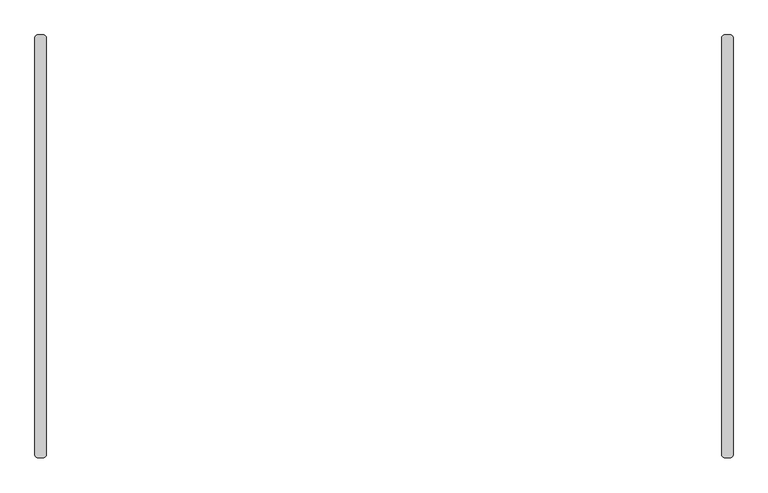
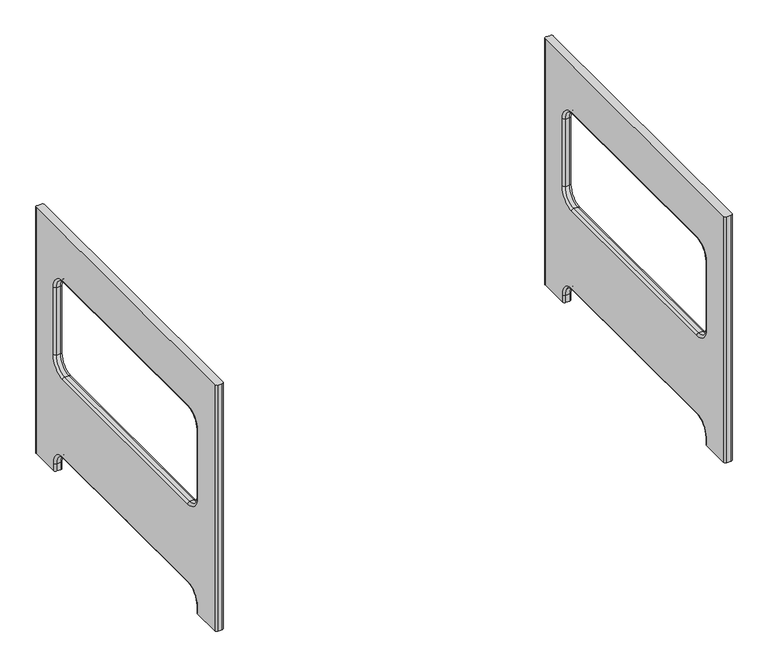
"""IFC4 building model written with IfcOpenShell, lengths in millimetres: furniture geometry, SSL-Childcraft_Outdoor-Table-Rectangle : 2161355."""

from ifc_helpers import new_model, si_unit, point, frame, origin, place, context, project, spatial, polyline, circle_curve, ellipse_curve, trimmed, source, transform, mapped, element, save
from ifc_brep_helpers import plane_surface, cylinder_surface, revolved_surface, advanced_brep


def furniture_5581bd78(model_context):
    return source(origin(), model_context, "Body", "AdvancedBrep", [
        advanced_brep(
        [(-573.0875, 355.6, 590.55), (-582.6125, 355.6, 590.55), (-587.375, 350.8375, 590.55), (-587.375, -350.8375, 590.55), (-582.6125, -355.6, 590.55), (-573.0875, -355.6, 590.55), (-568.325, -350.8375, 590.55), (-568.325, 350.8375, 590.55), (-573.0875, 355.6, 0.0), (-568.325, 350.8375, 0.0), (-568.325, 283.36875, 0.0), (-573.0875, 278.60625, 0.0), (-582.6125, 278.60625, 0.0), (-587.375, 283.36875, 0.0), (-587.375, 350.8375, 0.0), (-582.6125, 355.6, 0.0), (-573.0875, -355.6, 0.0), (-582.6125, -355.6, 0.0), (-587.375, -350.8375, 0.0), (-587.375, -283.36875, 0.0), (-582.6125, -278.60625, 0.0), (-573.0875, -278.60625, 0.0), (-568.325, -283.36875, 0.0), (-568.325, -350.8375, 0.0), (-587.375, 283.36875, 17.4625), (-587.375, 246.0625, 54.76875), (-587.375, -246.0625, 54.76875), (-587.375, -283.36875, 17.4625), (-587.375, -246.0625, 477.04375), (-587.375, -283.36875, 439.7375), (-587.375, -283.36875, 277.8125), (-587.375, -246.0625, 240.50625), (-587.375, 246.0625, 240.50625), (-587.375, 283.36875, 277.8125), (-587.375, 283.36875, 439.7375), (-587.375, 246.0625, 477.04375), (-568.325, -283.36875, 17.4625), (-568.325, -246.0625, 54.76875), (-568.325, 246.0625, 54.76875), (-568.325, 283.36875, 17.4625), (-568.325, -283.36875, 439.7375), (-568.325, -246.0625, 477.04375), (-568.325, 246.0625, 477.04375), (-568.325, 283.36875, 439.7375), (-568.325, 283.36875, 277.8125), (-568.325, 246.0625, 240.50625), (-568.325, -246.0625, 240.50625), (-568.325, -283.36875, 277.8125), (-582.6125, -278.60625, 17.4625), (-573.0875, -278.60625, 17.4625), (-582.6125, -246.0625, 50.00625), (-573.0875, -246.0625, 50.00625), (-582.6125, 246.0625, 50.00625), (-573.0875, 246.0625, 50.00625), (-582.6125, 278.60625, 17.4625), (-573.0875, 278.60625, 17.4625), (-573.0875, -278.60625, 439.7375), (-573.0875, -246.0625, 472.28125), (-582.6125, -278.60625, 439.7375), (-582.6125, -246.0625, 472.28125), (-573.0875, -278.60625, 277.8125), (-582.6125, -278.60625, 277.8125), (-573.0875, -246.0625, 245.26875), (-582.6125, -246.0625, 245.26875), (-573.0875, 246.0625, 245.26875), (-582.6125, 246.0625, 245.26875), (-573.0875, 278.60625, 277.8125), (-582.6125, 278.60625, 277.8125), (-573.0875, 278.60625, 439.7375), (-582.6125, 278.60625, 439.7375), (-573.0875, 246.0625, 472.28125), (-582.6125, 246.0625, 472.28125)],
        [
            (0, 1),
            (1, 2, circle_curve(frame((-582.6125, 350.8375, 590.55), z_axis=(0.0, 0.0, 1.0), x_axis=(1.0, 0.0, 0.0)), 4.7625)),
            (2, 3),
            (3, 4, circle_curve(frame((-582.6125, -350.8375, 590.55), z_axis=(0.0, 0.0, 1.0), x_axis=(1.0, 0.0, 0.0)), 4.7625)),
            (4, 5),
            (5, 6, circle_curve(frame((-573.0875, -350.8375, 590.55), z_axis=(0.0, 0.0, 1.0), x_axis=(1.0, 0.0, 0.0)), 4.7625)),
            (6, 7),
            (7, 0, circle_curve(frame((-573.0875, 350.8375, 590.55), z_axis=(0.0, 0.0, 1.0), x_axis=(1.0, 0.0, 0.0)), 4.7625)),
            (8, 9, circle_curve(frame((-573.0875, 350.8375, 0.0), z_axis=(0.0, 0.0, -1.0), x_axis=(1.0, 0.0, 0.0)), 4.7625)),
            (9, 10),
            (10, 11, circle_curve(frame((-573.0875, 283.36875, 0.0), z_axis=(0.0, 0.0, -1.0), x_axis=(0.0, 1.0, 0.0)), 4.7625)),
            (11, 12),
            (12, 13, circle_curve(frame((-582.6125, 283.36875, 0.0), z_axis=(0.0, 0.0, -1.0), x_axis=(0.0, 1.0, 0.0)), 4.7625)),
            (13, 14),
            (14, 15, circle_curve(frame((-582.6125, 350.8375, 0.0), z_axis=(0.0, 0.0, -1.0), x_axis=(1.0, 0.0, 0.0)), 4.7625)),
            (15, 8),
            (16, 17),
            (17, 18, circle_curve(frame((-582.6125, -350.8375, 0.0), z_axis=(0.0, 0.0, -1.0), x_axis=(1.0, 0.0, 0.0)), 4.7625)),
            (18, 19),
            (19, 20, circle_curve(frame((-582.6125, -283.36875, 0.0), z_axis=(0.0, 0.0, -1.0), x_axis=(0.0, -1.0, 0.0)), 4.7625)),
            (20, 21),
            (21, 22, circle_curve(frame((-573.0875, -283.36875, 0.0), z_axis=(0.0, 0.0, -1.0), x_axis=(0.0, -1.0, 0.0)), 4.7625)),
            (22, 23),
            (23, 16, circle_curve(frame((-573.0875, -350.8375, 0.0), z_axis=(0.0, 0.0, -1.0), x_axis=(1.0, 0.0, 0.0)), 4.7625)),
            (0, 8),
            (15, 1),
            (14, 2),
            (13, 24),
            (24, 25, circle_curve(frame((-587.375, 246.0625, 17.4625), z_axis=(1.0, 0.0, 0.0), x_axis=(0.0, 0.0, 1.0)), 37.30625)),
            (25, 26),
            (26, 27, circle_curve(frame((-587.375, -246.0625, 17.4625), z_axis=(1.0, 0.0, 0.0), x_axis=(0.0, -1.0, 0.0)), 37.30625)),
            (27, 19),
            (18, 3),
            (28, 29, circle_curve(frame((-587.375, -246.0625, 439.7375), z_axis=(1.0, 0.0, 0.0), x_axis=(0.0, 0.0, 1.0)), 37.30625)),
            (29, 30),
            (30, 31, circle_curve(frame((-587.375, -246.0625, 277.8125), z_axis=(1.0, 0.0, 0.0), x_axis=(0.0, -1.0, 0.0)), 37.30625)),
            (31, 32),
            (32, 33, circle_curve(frame((-587.375, 246.0625, 277.8125), z_axis=(1.0, 0.0, 0.0), x_axis=(0.0, 0.0, -1.0)), 37.30625)),
            (33, 34),
            (34, 35, circle_curve(frame((-587.375, 246.0625, 439.7375), z_axis=(1.0, 0.0, 0.0), x_axis=(0.0, 1.0, 0.0)), 37.30625)),
            (35, 28),
            (9, 7),
            (6, 23),
            (22, 36),
            (36, 37, circle_curve(frame((-568.325, -246.0625, 17.4625), z_axis=(-1.0, 0.0, 0.0), x_axis=(0.0, -1.0, 0.0)), 37.30625)),
            (37, 38),
            (38, 39, circle_curve(frame((-568.325, 246.0625, 17.4625), z_axis=(-1.0, 0.0, 0.0), x_axis=(0.0, 0.0, 1.0)), 37.30625)),
            (39, 10),
            (40, 41, circle_curve(frame((-568.325, -246.0625, 439.7375), z_axis=(-1.0, 0.0, 0.0), x_axis=(0.0, 0.0, 1.0)), 37.30625)),
            (41, 42),
            (42, 43, circle_curve(frame((-568.325, 246.0625, 439.7375), z_axis=(-1.0, 0.0, 0.0), x_axis=(0.0, 1.0, 0.0)), 37.30625)),
            (43, 44),
            (44, 45, circle_curve(frame((-568.325, 246.0625, 277.8125), z_axis=(-1.0, 0.0, 0.0), x_axis=(0.0, 0.0, -1.0)), 37.30625)),
            (45, 46),
            (46, 47, circle_curve(frame((-568.325, -246.0625, 277.8125), z_axis=(-1.0, 0.0, 0.0), x_axis=(0.0, -1.0, 0.0)), 37.30625)),
            (47, 40),
            (5, 16),
            (17, 4),
            (27, 48, circle_curve(frame((-582.6125, -283.36875, 17.4625), z_axis=(0.0, 0.0, -1.0), x_axis=(0.0, -1.0, 0.0)), 4.7625)),
            (48, 20),
            (48, 49),
            (49, 21),
            (49, 36, circle_curve(frame((-573.0875, -283.36875, 17.4625), z_axis=(0.0, 0.0, -1.0), x_axis=(0.0, -1.0, 0.0)), 4.7625)),
            (26, 50, circle_curve(frame((-582.6125, -246.0625, 54.76875), z_axis=(0.0, -1.0, 0.0), x_axis=(0.0, 0.0, 1.0)), 4.7625)),
            (50, 48, circle_curve(frame((-582.6125, -246.0625, 17.4625), z_axis=(1.0, 0.0, 0.0), x_axis=(0.0, -1.0, 0.0)), 32.54375)),
            (50, 51),
            (51, 49, circle_curve(frame((-573.0875, -246.0625, 17.4625), z_axis=(1.0, 0.0, 0.0), x_axis=(0.0, -1.0, 0.0)), 32.54375)),
            (51, 37, circle_curve(frame((-573.0875, -246.0625, 54.76875), z_axis=(0.0, -1.0, 0.0), x_axis=(0.0, 0.0, 1.0)), 4.7625)),
            (25, 52, circle_curve(frame((-582.6125, 246.0625, 54.76875), z_axis=(0.0, -1.0, 0.0), x_axis=(0.0, 0.0, 1.0)), 4.7625)),
            (52, 50),
            (52, 53),
            (53, 51),
            (53, 38, circle_curve(frame((-573.0875, 246.0625, 54.76875), z_axis=(0.0, -1.0, 0.0), x_axis=(0.0, 0.0, 1.0)), 4.7625)),
            (24, 54, circle_curve(frame((-582.6125, 283.36875, 17.4625), z_axis=(0.0, 0.0, 1.0), x_axis=(0.0, 1.0, 0.0)), 4.7625)),
            (54, 52, circle_curve(frame((-582.6125, 246.0625, 17.4625), z_axis=(1.0, 0.0, 0.0), x_axis=(0.0, 0.0, 1.0)), 32.54375)),
            (54, 55),
            (55, 53, circle_curve(frame((-573.0875, 246.0625, 17.4625), z_axis=(1.0, 0.0, 0.0), x_axis=(0.0, 0.0, 1.0)), 32.54375)),
            (55, 39, circle_curve(frame((-573.0875, 283.36875, 17.4625), z_axis=(0.0, 0.0, 1.0), x_axis=(0.0, 1.0, 0.0)), 4.7625)),
            (12, 54),
            (11, 55),
            (56, 57, circle_curve(frame((-573.0875, -246.0625, 439.7375), z_axis=(-1.0, 0.0, 0.0), x_axis=(0.0, 0.0, 1.0)), 32.54375)),
            (57, 41, circle_curve(frame((-573.0875, -246.0625, 477.04375), z_axis=(0.0, -1.0, 0.0), x_axis=(0.0, 0.0, -1.0)), 4.7625)),
            (40, 56, circle_curve(frame((-573.0875, -283.36875, 439.7375), z_axis=(0.0, 0.0, 1.0), x_axis=(0.0, 1.0, 0.0)), 4.7625)),
            (56, 58),
            (58, 59, circle_curve(frame((-582.6125, -246.0625, 439.7375), z_axis=(-1.0, 0.0, 0.0), x_axis=(0.0, 0.0, 1.0)), 32.54375)),
            (59, 57),
            (58, 29, circle_curve(frame((-582.6125, -283.36875, 439.7375), z_axis=(0.0, 0.0, 1.0), x_axis=(0.0, 1.0, 0.0)), 4.7625)),
            (28, 59, circle_curve(frame((-582.6125, -246.0625, 477.04375), z_axis=(0.0, -1.0, 0.0), x_axis=(0.0, 0.0, -1.0)), 4.7625)),
            (47, 60, circle_curve(frame((-573.0875, -283.36875, 277.8125), z_axis=(0.0, 0.0, 1.0), x_axis=(0.0, 1.0, 0.0)), 4.7625)),
            (60, 56),
            (60, 61),
            (61, 58),
            (61, 30, circle_curve(frame((-582.6125, -283.36875, 277.8125), z_axis=(0.0, 0.0, 1.0), x_axis=(0.0, 1.0, 0.0)), 4.7625)),
            (46, 62, circle_curve(frame((-573.0875, -246.0625, 240.50625), z_axis=(0.0, -1.0, 0.0), x_axis=(0.0, 0.0, 1.0)), 4.7625)),
            (62, 60, circle_curve(frame((-573.0875, -246.0625, 277.8125), z_axis=(-1.0, 0.0, 0.0), x_axis=(0.0, -1.0, 0.0)), 32.54375)),
            (62, 63),
            (63, 61, circle_curve(frame((-582.6125, -246.0625, 277.8125), z_axis=(-1.0, 0.0, 0.0), x_axis=(0.0, -1.0, 0.0)), 32.54375)),
            (63, 31, circle_curve(frame((-582.6125, -246.0625, 240.50625), z_axis=(0.0, -1.0, 0.0), x_axis=(0.0, 0.0, 1.0)), 4.7625)),
            (45, 64, circle_curve(frame((-573.0875, 246.0625, 240.50625), z_axis=(0.0, -1.0, 0.0), x_axis=(0.0, 0.0, 1.0)), 4.7625)),
            (64, 62),
            (64, 65),
            (65, 63),
            (65, 32, circle_curve(frame((-582.6125, 246.0625, 240.50625), z_axis=(0.0, -1.0, 0.0), x_axis=(0.0, 0.0, 1.0)), 4.7625)),
            (44, 66, circle_curve(frame((-573.0875, 283.36875, 277.8125), z_axis=(0.0, 0.0, -1.0), x_axis=(0.0, -1.0, 0.0)), 4.7625)),
            (66, 64, circle_curve(frame((-573.0875, 246.0625, 277.8125), z_axis=(-1.0, 0.0, 0.0), x_axis=(0.0, 0.0, -1.0)), 32.54375)),
            (66, 67),
            (67, 65, circle_curve(frame((-582.6125, 246.0625, 277.8125), z_axis=(-1.0, 0.0, 0.0), x_axis=(0.0, 0.0, -1.0)), 32.54375)),
            (67, 33, circle_curve(frame((-582.6125, 283.36875, 277.8125), z_axis=(0.0, 0.0, -1.0), x_axis=(0.0, -1.0, 0.0)), 4.7625)),
            (43, 68, circle_curve(frame((-573.0875, 283.36875, 439.7375), z_axis=(0.0, 0.0, -1.0), x_axis=(0.0, -1.0, 0.0)), 4.7625)),
            (68, 66),
            (68, 69),
            (69, 67),
            (69, 34, circle_curve(frame((-582.6125, 283.36875, 439.7375), z_axis=(0.0, 0.0, -1.0), x_axis=(0.0, -1.0, 0.0)), 4.7625)),
            (42, 70, circle_curve(frame((-573.0875, 246.0625, 477.04375), z_axis=(0.0, 1.0, 0.0), x_axis=(0.0, 0.0, -1.0)), 4.7625)),
            (70, 68, circle_curve(frame((-573.0875, 246.0625, 439.7375), z_axis=(-1.0, 0.0, 0.0), x_axis=(0.0, 1.0, 0.0)), 32.54375)),
            (70, 71),
            (71, 69, circle_curve(frame((-582.6125, 246.0625, 439.7375), z_axis=(-1.0, 0.0, 0.0), x_axis=(0.0, 1.0, 0.0)), 32.54375)),
            (71, 35, circle_curve(frame((-582.6125, 246.0625, 477.04375), z_axis=(0.0, 1.0, 0.0), x_axis=(0.0, 0.0, -1.0)), 4.7625)),
            (57, 70),
            (59, 71),
        ],
        [
            plane_surface(frame((-582.6125, 355.6, 590.55), z_axis=(0.0, 0.0, 1.0), x_axis=(-1.0, 0.0, 0.0))),
            plane_surface(frame((-582.6125, 355.6, 0.0), z_axis=(0.0, 0.0, -1.0), x_axis=(1.0, 0.0, 0.0))),
            plane_surface(frame((-573.0875, 355.6, 590.55), z_axis=(0.0, 1.0, 0.0), x_axis=(0.0, 0.0, -1.0))),
            cylinder_surface(frame((-582.6125, 350.8375, 0.0), z_axis=(0.0, 0.0, 1.0), x_axis=(1.0, 0.0, 0.0)), 4.7625),
            plane_surface(frame((-587.375, 350.8375, 590.55), z_axis=(-1.0, 0.0, 0.0), x_axis=(0.0, 0.0, -1.0))),
            plane_surface(frame((-568.325, 350.04375, 590.55), z_axis=(1.0, 0.0, 0.0), x_axis=(0.0, 0.0, -1.0))),
            cylinder_surface(frame((-573.0875, 350.8375, 0.0), z_axis=(0.0, 0.0, 1.0), x_axis=(1.0, 0.0, 0.0)), 4.7625),
            cylinder_surface(frame((-573.0875, -350.8375, 0.0), z_axis=(0.0, 0.0, 1.0), x_axis=(1.0, 0.0, 0.0)), 4.7625),
            cylinder_surface(frame((-582.6125, -350.8375, 0.0), z_axis=(0.0, 0.0, 1.0), x_axis=(1.0, 0.0, 0.0)), 4.7625),
            plane_surface(frame((-582.6125, -355.6, 590.55), z_axis=(0.0, -1.0, 0.0), x_axis=(0.0, 0.0, -1.0))),
            cylinder_surface(frame((-582.6125, -283.36875, 0.0), z_axis=(0.0, 0.0, -1.0), x_axis=(0.0, -1.0, 0.0)), 4.7625),
            plane_surface(frame((-582.6125, -278.60625, 0.0), z_axis=(0.0, 1.0, 0.0), x_axis=(0.0, 0.0, 1.0))),
            cylinder_surface(frame((-573.0875, -283.36875, 0.0), z_axis=(0.0, 0.0, -1.0), x_axis=(0.0, -1.0, 0.0)), 4.7625),
            revolved_surface(trimmed(ellipse_curve(frame((-582.6125, -283.36875, 17.4625), z_axis=(0.0, 0.0, -1.0), x_axis=(0.0, -1.0, 0.0)), 4.7625, 4.7625), [point((-587.375, -283.36875, 17.4625))], [point((-582.6125, -278.60625, 17.4625))], True, "CARTESIAN"), (0.0, -246.0625, 17.4625), (-1.0, 0.0, 0.0)),
            revolved_surface(polyline([(-582.6125, -278.60625, 17.4625), (-573.0875, -278.60625, 17.4625)]), (0.0, -246.0625, 17.4625), (-1.0, 0.0, 0.0)),
            revolved_surface(trimmed(ellipse_curve(frame((-573.0875, -283.36875, 17.4625), z_axis=(0.0, 0.0, -1.0), x_axis=(0.0, -1.0, 0.0)), 4.7625, 4.7625), [point((-573.0875, -278.60625, 17.4625))], [point((-568.325, -283.36875, 17.4625))], True, "CARTESIAN"), (0.0, -246.0625, 17.4625), (-1.0, 0.0, 0.0)),
            cylinder_surface(frame((-582.6125, -246.0625, 54.76875), z_axis=(0.0, -1.0, 0.0), x_axis=(0.0, 0.0, 1.0)), 4.7625),
            plane_surface(frame((-582.6125, -246.0625, 50.00625), z_axis=(0.0, 0.0, -1.0), x_axis=(0.0, 1.0, 0.0))),
            cylinder_surface(frame((-573.0875, -246.0625, 54.76875), z_axis=(0.0, -1.0, 0.0), x_axis=(0.0, 0.0, 1.0)), 4.7625),
            revolved_surface(trimmed(ellipse_curve(frame((-582.6125, 246.0625, 54.76875), z_axis=(0.0, -1.0, 0.0), x_axis=(0.0, 0.0, 1.0)), 4.7625, 4.7625), [point((-587.375, 246.0625, 54.76875))], [point((-582.6125, 246.0625, 50.00625))], True, "CARTESIAN"), (0.0, 246.0625, 17.4625), (-1.0, 0.0, 0.0)),
            revolved_surface(polyline([(-582.6125, 246.0625, 50.00625), (-573.0875, 246.0625, 50.00625)]), (0.0, 246.0625, 17.4625), (-1.0, 0.0, 0.0)),
            revolved_surface(trimmed(ellipse_curve(frame((-573.0875, 246.0625, 54.76875), z_axis=(0.0, -1.0, 0.0), x_axis=(0.0, 0.0, 1.0)), 4.7625, 4.7625), [point((-573.0875, 246.0625, 50.00625))], [point((-568.325, 246.0625, 54.76875))], True, "CARTESIAN"), (0.0, 246.0625, 17.4625), (-1.0, 0.0, 0.0)),
            cylinder_surface(frame((-582.6125, 283.36875, 17.4625), z_axis=(0.0, 0.0, 1.0), x_axis=(0.0, 1.0, 0.0)), 4.7625),
            plane_surface(frame((-582.6125, 278.60625, 17.4625), z_axis=(0.0, -1.0, 0.0), x_axis=(0.0, 0.0, -1.0))),
            cylinder_surface(frame((-573.0875, 283.36875, 17.4625), z_axis=(0.0, 0.0, 1.0), x_axis=(0.0, 1.0, 0.0)), 4.7625),
            revolved_surface(trimmed(ellipse_curve(frame((-573.0875, -246.0625, 477.04375), z_axis=(0.0, 1.0, 0.0), x_axis=(0.0, 0.0, -1.0)), 4.7625, 4.7625), [point((-568.325, -246.0625, 477.04375))], [point((-573.0875, -246.0625, 472.28125))], True, "CARTESIAN"), (0.0, -246.0625, 439.7375), (1.0, 0.0, 0.0)),
            revolved_surface(polyline([(-573.0875, -246.0625, 472.28125), (-582.6125, -246.0625, 472.28125)]), (0.0, -246.0625, 439.7375), (1.0, 0.0, 0.0)),
            revolved_surface(trimmed(ellipse_curve(frame((-582.6125, -246.0625, 477.04375), z_axis=(0.0, 1.0, 0.0), x_axis=(0.0, 0.0, -1.0)), 4.7625, 4.7625), [point((-582.6125, -246.0625, 472.28125))], [point((-587.375, -246.0625, 477.04375))], True, "CARTESIAN"), (0.0, -246.0625, 439.7375), (1.0, 0.0, 0.0)),
            cylinder_surface(frame((-573.0875, -283.36875, 439.7375), z_axis=(0.0, 0.0, 1.0), x_axis=(0.0, 1.0, 0.0)), 4.7625),
            plane_surface(frame((-573.0875, -278.60625, 439.7375), z_axis=(0.0, 1.0, 0.0), x_axis=(0.0, 0.0, -1.0))),
            cylinder_surface(frame((-582.6125, -283.36875, 439.7375), z_axis=(0.0, 0.0, 1.0), x_axis=(0.0, 1.0, 0.0)), 4.7625),
            revolved_surface(trimmed(ellipse_curve(frame((-573.0875, -283.36875, 277.8125), z_axis=(0.0, 0.0, 1.0), x_axis=(0.0, 1.0, 0.0)), 4.7625, 4.7625), [point((-568.325, -283.36875, 277.8125))], [point((-573.0875, -278.60625, 277.8125))], True, "CARTESIAN"), (0.0, -246.0625, 277.8125), (1.0, 0.0, 0.0)),
            revolved_surface(polyline([(-573.0875, -278.60625, 277.8125), (-582.6125, -278.60625, 277.8125)]), (0.0, -246.0625, 277.8125), (1.0, 0.0, 0.0)),
            revolved_surface(trimmed(ellipse_curve(frame((-582.6125, -283.36875, 277.8125), z_axis=(0.0, 0.0, 1.0), x_axis=(0.0, 1.0, 0.0)), 4.7625, 4.7625), [point((-582.6125, -278.60625, 277.8125))], [point((-587.375, -283.36875, 277.8125))], True, "CARTESIAN"), (0.0, -246.0625, 277.8125), (1.0, 0.0, 0.0)),
            cylinder_surface(frame((-573.0875, -246.0625, 240.50625), z_axis=(0.0, -1.0, 0.0), x_axis=(0.0, 0.0, 1.0)), 4.7625),
            plane_surface(frame((-573.0875, -246.0625, 245.26875), z_axis=(0.0, 0.0, 1.0), x_axis=(0.0, 1.0, 0.0))),
            cylinder_surface(frame((-582.6125, -246.0625, 240.50625), z_axis=(0.0, -1.0, 0.0), x_axis=(0.0, 0.0, 1.0)), 4.7625),
            revolved_surface(trimmed(ellipse_curve(frame((-573.0875, 246.0625, 240.50625), z_axis=(0.0, -1.0, 0.0), x_axis=(0.0, 0.0, 1.0)), 4.7625, 4.7625), [point((-568.325, 246.0625, 240.50625))], [point((-573.0875, 246.0625, 245.26875))], True, "CARTESIAN"), (0.0, 246.0625, 277.8125), (1.0, 0.0, 0.0)),
            revolved_surface(polyline([(-573.0875, 246.0625, 245.26875), (-582.6125, 246.0625, 245.26875)]), (0.0, 246.0625, 277.8125), (1.0, 0.0, 0.0)),
            revolved_surface(trimmed(ellipse_curve(frame((-582.6125, 246.0625, 240.50625), z_axis=(0.0, -1.0, 0.0), x_axis=(0.0, 0.0, 1.0)), 4.7625, 4.7625), [point((-582.6125, 246.0625, 245.26875))], [point((-587.375, 246.0625, 240.50625))], True, "CARTESIAN"), (0.0, 246.0625, 277.8125), (1.0, 0.0, 0.0)),
            cylinder_surface(frame((-573.0875, 283.36875, 277.8125), z_axis=(0.0, 0.0, -1.0), x_axis=(0.0, -1.0, 0.0)), 4.7625),
            plane_surface(frame((-573.0875, 278.60625, 277.8125), z_axis=(0.0, -1.0, 0.0), x_axis=(0.0, 0.0, 1.0))),
            cylinder_surface(frame((-582.6125, 283.36875, 277.8125), z_axis=(0.0, 0.0, -1.0), x_axis=(0.0, -1.0, 0.0)), 4.7625),
            revolved_surface(trimmed(ellipse_curve(frame((-573.0875, 283.36875, 439.7375), z_axis=(0.0, 0.0, -1.0), x_axis=(0.0, -1.0, 0.0)), 4.7625, 4.7625), [point((-568.325, 283.36875, 439.7375))], [point((-573.0875, 278.60625, 439.7375))], True, "CARTESIAN"), (0.0, 246.0625, 439.7375), (1.0, 0.0, 0.0)),
            revolved_surface(polyline([(-573.0875, 278.60625, 439.7375), (-582.6125, 278.60625, 439.7375)]), (0.0, 246.0625, 439.7375), (1.0, 0.0, 0.0)),
            revolved_surface(trimmed(ellipse_curve(frame((-582.6125, 283.36875, 439.7375), z_axis=(0.0, 0.0, -1.0), x_axis=(0.0, -1.0, 0.0)), 4.7625, 4.7625), [point((-582.6125, 278.60625, 439.7375))], [point((-587.375, 283.36875, 439.7375))], True, "CARTESIAN"), (0.0, 246.0625, 439.7375), (1.0, 0.0, 0.0)),
            cylinder_surface(frame((-573.0875, 246.0625, 477.04375), z_axis=(0.0, 1.0, 0.0), x_axis=(0.0, 0.0, -1.0)), 4.7625),
            plane_surface(frame((-573.0875, 246.0625, 472.28125), z_axis=(0.0, 0.0, -1.0), x_axis=(0.0, -1.0, 0.0))),
            cylinder_surface(frame((-582.6125, 246.0625, 477.04375), z_axis=(0.0, 1.0, 0.0), x_axis=(0.0, 0.0, -1.0)), 4.7625),
        ],
        [
            (0, [[1, 2, 3, 4, 5, 6, 7, 8]]),
            (1, [[9, 10, 11, 12, 13, 14, 15, 16]]),
            (1, [[17, 18, 19, 20, 21, 22, 23, 24]]),
            (2, [[-1, 25, -16, 26]]),
            (3, [[-2, -26, -15, 27]]),
            (4, [[-27, -14, 28, 29, 30, 31, 32, -19, 33, -3], [34, 35, 36, 37, 38, 39, 40, 41]]),
            (5, [[42, -7, 43, -23, 44, 45, 46, 47, 48, -10], [49, 50, 51, 52, 53, 54, 55, 56]]),
            (6, [[-8, -42, -9, -25]]),
            (7, [[-6, 57, -24, -43]]),
            (8, [[-4, -33, -18, 58]]),
            (9, [[-5, -58, -17, -57]]),
            (10, [[-20, -32, 59, 60]]),
            (11, [[-21, -60, 61, 62]]),
            (12, [[-22, -62, 63, -44]]),
            (13, [[-31, 64, 65, -59]]),
            (14, [[-61, -65, 66, 67]]),
            (15, [[-63, -67, 68, -45]]),
            (16, [[-30, 69, 70, -64]]),
            (17, [[-66, -70, 71, 72]]),
            (18, [[-46, -68, -72, 73]]),
            (19, [[-29, 74, 75, -69]]),
            (20, [[-71, -75, 76, 77]]),
            (21, [[-47, -73, -77, 78]]),
            (22, [[-28, -13, 79, -74]]),
            (23, [[-76, -79, -12, 80]]),
            (24, [[-48, -78, -80, -11]]),
            (25, [[81, 82, -49, 83]]),
            (26, [[-81, 84, 85, 86]]),
            (27, [[-85, 87, -34, 88]]),
            (28, [[-83, -56, 89, 90]]),
            (29, [[-84, -90, 91, 92]]),
            (30, [[-87, -92, 93, -35]]),
            (31, [[-89, -55, 94, 95]]),
            (32, [[-91, -95, 96, 97]]),
            (33, [[-93, -97, 98, -36]]),
            (34, [[-94, -54, 99, 100]]),
            (35, [[-96, -100, 101, 102]]),
            (36, [[-98, -102, 103, -37]]),
            (37, [[-99, -53, 104, 105]]),
            (38, [[-101, -105, 106, 107]]),
            (39, [[-103, -107, 108, -38]]),
            (40, [[-104, -52, 109, 110]]),
            (41, [[-106, -110, 111, 112]]),
            (42, [[-108, -112, 113, -39]]),
            (43, [[-109, -51, 114, 115]]),
            (44, [[-111, -115, 116, 117]]),
            (45, [[-113, -117, 118, -40]]),
            (46, [[-82, 119, -114, -50]]),
            (47, [[-86, 120, -116, -119]]),
            (48, [[-88, -41, -118, -120]]),
        ],
    ),
        advanced_brep(
        [(573.0875, 355.6, 590.55), (568.325, 350.8375, 590.55), (568.325, -350.8375, 590.55), (573.0875, -355.6, 590.55), (582.6125, -355.6, 590.55), (587.375, -350.8375, 590.55), (587.375, 350.8375, 590.55), (582.6125, 355.6, 590.55), (573.0875, 355.6, 0.0), (582.6125, 355.6, 0.0), (587.375, 350.8375, 0.0), (587.375, 283.36875, 0.0), (582.6125, 278.60625, 0.0), (573.0875, 278.60625, 0.0), (568.325, 283.36875, 0.0), (568.325, 350.8375, 0.0), (568.325, -283.36875, 0.0), (573.0875, -278.60625, 0.0), (582.6125, -278.60625, 0.0), (587.375, -283.36875, 0.0), (587.375, -350.8375, 0.0), (582.6125, -355.6, 0.0), (573.0875, -355.6, 0.0), (568.325, -350.8375, 0.0), (568.325, 283.36875, 17.4625), (568.325, 246.0625, 54.76875), (568.325, -246.0625, 54.76875), (568.325, -283.36875, 17.4625), (568.325, -246.0625, 477.04375), (568.325, -283.36875, 439.7375), (568.325, -283.36875, 277.8125), (568.325, -246.0625, 240.50625), (568.325, 246.0625, 240.50625), (568.325, 283.36875, 277.8125), (568.325, 283.36875, 439.7375), (568.325, 246.0625, 477.04375), (587.375, -283.36875, 17.4625), (587.375, -246.0625, 54.76875), (587.375, 246.0625, 54.76875), (587.375, 283.36875, 17.4625), (587.375, -283.36875, 439.7375), (587.375, -246.0625, 477.04375), (587.375, 246.0625, 477.04375), (587.375, 283.36875, 439.7375), (587.375, 283.36875, 277.8125), (587.375, 246.0625, 240.50625), (587.375, -246.0625, 240.50625), (587.375, -283.36875, 277.8125), (573.0875, -278.60625, 17.4625), (582.6125, -278.60625, 17.4625), (573.0875, -246.0625, 50.00625), (582.6125, -246.0625, 50.00625), (573.0875, 246.0625, 50.00625), (582.6125, 246.0625, 50.00625), (573.0875, 278.60625, 17.4625), (582.6125, 278.60625, 17.4625), (582.6125, -278.60625, 439.7375), (582.6125, -246.0625, 472.28125), (573.0875, -278.60625, 439.7375), (573.0875, -246.0625, 472.28125), (582.6125, -278.60625, 277.8125), (573.0875, -278.60625, 277.8125), (582.6125, -246.0625, 245.26875), (573.0875, -246.0625, 245.26875), (582.6125, 246.0625, 245.26875), (573.0875, 246.0625, 245.26875), (582.6125, 278.60625, 277.8125), (573.0875, 278.60625, 277.8125), (582.6125, 278.60625, 439.7375), (573.0875, 278.60625, 439.7375), (582.6125, 246.0625, 472.28125), (573.0875, 246.0625, 472.28125)],
        [
            (0, 1, circle_curve(frame((573.0875, 350.8375, 590.55), z_axis=(0.0, 0.0, 1.0), x_axis=(1.0, 0.0, 0.0)), 4.7625)),
            (1, 2),
            (2, 3, circle_curve(frame((573.0875, -350.8375, 590.55), z_axis=(0.0, 0.0, 1.0), x_axis=(1.0, 0.0, 0.0)), 4.7625)),
            (3, 4),
            (4, 5, circle_curve(frame((582.6125, -350.8375, 590.55), z_axis=(0.0, 0.0, 1.0), x_axis=(1.0, 0.0, 0.0)), 4.7625)),
            (5, 6),
            (6, 7, circle_curve(frame((582.6125, 350.8375, 590.55), z_axis=(0.0, 0.0, 1.0), x_axis=(1.0, 0.0, 0.0)), 4.7625)),
            (7, 0),
            (8, 9),
            (9, 10, circle_curve(frame((582.6125, 350.8375, 0.0), z_axis=(0.0, 0.0, -1.0), x_axis=(1.0, 0.0, 0.0)), 4.7625)),
            (10, 11),
            (11, 12, circle_curve(frame((582.6125, 283.36875, 0.0), z_axis=(0.0, 0.0, -1.0), x_axis=(0.0, 1.0, 0.0)), 4.7625)),
            (12, 13),
            (13, 14, circle_curve(frame((573.0875, 283.36875, 0.0), z_axis=(0.0, 0.0, -1.0), x_axis=(0.0, 1.0, 0.0)), 4.7625)),
            (14, 15),
            (15, 8, circle_curve(frame((573.0875, 350.8375, 0.0), z_axis=(0.0, 0.0, -1.0), x_axis=(1.0, 0.0, 0.0)), 4.7625)),
            (16, 17, circle_curve(frame((573.0875, -283.36875, 0.0), z_axis=(0.0, 0.0, -1.0), x_axis=(0.0, -1.0, 0.0)), 4.7625)),
            (17, 18),
            (18, 19, circle_curve(frame((582.6125, -283.36875, 0.0), z_axis=(0.0, 0.0, -1.0), x_axis=(0.0, -1.0, 0.0)), 4.7625)),
            (19, 20),
            (20, 21, circle_curve(frame((582.6125, -350.8375, 0.0), z_axis=(0.0, 0.0, -1.0), x_axis=(1.0, 0.0, 0.0)), 4.7625)),
            (21, 22),
            (22, 23, circle_curve(frame((573.0875, -350.8375, 0.0), z_axis=(0.0, 0.0, -1.0), x_axis=(1.0, 0.0, 0.0)), 4.7625)),
            (23, 16),
            (0, 8),
            (15, 1),
            (14, 24),
            (24, 25, circle_curve(frame((568.325, 246.0625, 17.4625), z_axis=(1.0, 0.0, 0.0), x_axis=(0.0, 0.0, 1.0)), 37.30625)),
            (25, 26),
            (26, 27, circle_curve(frame((568.325, -246.0625, 17.4625), z_axis=(1.0, 0.0, 0.0), x_axis=(0.0, -1.0, 0.0)), 37.30625)),
            (27, 16),
            (23, 2),
            (28, 29, circle_curve(frame((568.325, -246.0625, 439.7375), z_axis=(1.0, 0.0, 0.0), x_axis=(0.0, 0.0, 1.0)), 37.30625)),
            (29, 30),
            (30, 31, circle_curve(frame((568.325, -246.0625, 277.8125), z_axis=(1.0, 0.0, 0.0), x_axis=(0.0, -1.0, 0.0)), 37.30625)),
            (31, 32),
            (32, 33, circle_curve(frame((568.325, 246.0625, 277.8125), z_axis=(1.0, 0.0, 0.0), x_axis=(0.0, 0.0, -1.0)), 37.30625)),
            (33, 34),
            (34, 35, circle_curve(frame((568.325, 246.0625, 439.7375), z_axis=(1.0, 0.0, 0.0), x_axis=(0.0, 1.0, 0.0)), 37.30625)),
            (35, 28),
            (5, 20),
            (19, 36),
            (36, 37, circle_curve(frame((587.375, -246.0625, 17.4625), z_axis=(-1.0, 0.0, 0.0), x_axis=(0.0, -1.0, 0.0)), 37.30625)),
            (37, 38),
            (38, 39, circle_curve(frame((587.375, 246.0625, 17.4625), z_axis=(-1.0, 0.0, 0.0), x_axis=(0.0, 0.0, 1.0)), 37.30625)),
            (39, 11),
            (10, 6),
            (40, 41, circle_curve(frame((587.375, -246.0625, 439.7375), z_axis=(-1.0, 0.0, 0.0), x_axis=(0.0, 0.0, 1.0)), 37.30625)),
            (41, 42),
            (42, 43, circle_curve(frame((587.375, 246.0625, 439.7375), z_axis=(-1.0, 0.0, 0.0), x_axis=(0.0, 1.0, 0.0)), 37.30625)),
            (43, 44),
            (44, 45, circle_curve(frame((587.375, 246.0625, 277.8125), z_axis=(-1.0, 0.0, 0.0), x_axis=(0.0, 0.0, -1.0)), 37.30625)),
            (45, 46),
            (46, 47, circle_curve(frame((587.375, -246.0625, 277.8125), z_axis=(-1.0, 0.0, 0.0), x_axis=(0.0, -1.0, 0.0)), 37.30625)),
            (47, 40),
            (9, 7),
            (3, 22),
            (21, 4),
            (17, 48),
            (48, 49),
            (49, 18),
            (48, 50, circle_curve(frame((573.0875, -246.0625, 17.4625), z_axis=(-1.0, 0.0, 0.0), x_axis=(0.0, -1.0, 0.0)), 32.54375)),
            (50, 51),
            (51, 49, circle_curve(frame((582.6125, -246.0625, 17.4625), z_axis=(1.0, 0.0, 0.0), x_axis=(0.0, -1.0, 0.0)), 32.54375)),
            (50, 52),
            (52, 53),
            (53, 51),
            (52, 54, circle_curve(frame((573.0875, 246.0625, 17.4625), z_axis=(-1.0, 0.0, 0.0), x_axis=(0.0, 0.0, 1.0)), 32.54375)),
            (54, 55),
            (55, 53, circle_curve(frame((582.6125, 246.0625, 17.4625), z_axis=(1.0, 0.0, 0.0), x_axis=(0.0, 0.0, 1.0)), 32.54375)),
            (54, 13),
            (12, 55),
            (27, 48, circle_curve(frame((573.0875, -283.36875, 17.4625), z_axis=(0.0, 0.0, -1.0), x_axis=(0.0, -1.0, 0.0)), 4.7625)),
            (49, 36, circle_curve(frame((582.6125, -283.36875, 17.4625), z_axis=(0.0, 0.0, -1.0), x_axis=(0.0, -1.0, 0.0)), 4.7625)),
            (26, 50, circle_curve(frame((573.0875, -246.0625, 54.76875), z_axis=(0.0, -1.0, 0.0), x_axis=(0.0, 0.0, 1.0)), 4.7625)),
            (51, 37, circle_curve(frame((582.6125, -246.0625, 54.76875), z_axis=(0.0, -1.0, 0.0), x_axis=(0.0, 0.0, 1.0)), 4.7625)),
            (25, 52, circle_curve(frame((573.0875, 246.0625, 54.76875), z_axis=(0.0, -1.0, 0.0), x_axis=(0.0, 0.0, 1.0)), 4.7625)),
            (53, 38, circle_curve(frame((582.6125, 246.0625, 54.76875), z_axis=(0.0, -1.0, 0.0), x_axis=(0.0, 0.0, 1.0)), 4.7625)),
            (24, 54, circle_curve(frame((573.0875, 283.36875, 17.4625), z_axis=(0.0, 0.0, 1.0), x_axis=(0.0, 1.0, 0.0)), 4.7625)),
            (55, 39, circle_curve(frame((582.6125, 283.36875, 17.4625), z_axis=(0.0, 0.0, 1.0), x_axis=(0.0, 1.0, 0.0)), 4.7625)),
            (56, 57, circle_curve(frame((582.6125, -246.0625, 439.7375), z_axis=(-1.0, 0.0, 0.0), x_axis=(0.0, 0.0, 1.0)), 32.54375)),
            (57, 41, circle_curve(frame((582.6125, -246.0625, 477.04375), z_axis=(0.0, -1.0, 0.0), x_axis=(0.0, 0.0, -1.0)), 4.7625)),
            (40, 56, circle_curve(frame((582.6125, -283.36875, 439.7375), z_axis=(0.0, 0.0, 1.0), x_axis=(0.0, 1.0, 0.0)), 4.7625)),
            (56, 58),
            (58, 59, circle_curve(frame((573.0875, -246.0625, 439.7375), z_axis=(-1.0, 0.0, 0.0), x_axis=(0.0, 0.0, 1.0)), 32.54375)),
            (59, 57),
            (58, 29, circle_curve(frame((573.0875, -283.36875, 439.7375), z_axis=(0.0, 0.0, 1.0), x_axis=(0.0, 1.0, 0.0)), 4.7625)),
            (28, 59, circle_curve(frame((573.0875, -246.0625, 477.04375), z_axis=(0.0, -1.0, 0.0), x_axis=(0.0, 0.0, -1.0)), 4.7625)),
            (47, 60, circle_curve(frame((582.6125, -283.36875, 277.8125), z_axis=(0.0, 0.0, 1.0), x_axis=(0.0, 1.0, 0.0)), 4.7625)),
            (60, 56),
            (60, 61),
            (61, 58),
            (61, 30, circle_curve(frame((573.0875, -283.36875, 277.8125), z_axis=(0.0, 0.0, 1.0), x_axis=(0.0, 1.0, 0.0)), 4.7625)),
            (46, 62, circle_curve(frame((582.6125, -246.0625, 240.50625), z_axis=(0.0, -1.0, 0.0), x_axis=(0.0, 0.0, 1.0)), 4.7625)),
            (62, 60, circle_curve(frame((582.6125, -246.0625, 277.8125), z_axis=(-1.0, 0.0, 0.0), x_axis=(0.0, -1.0, 0.0)), 32.54375)),
            (62, 63),
            (63, 61, circle_curve(frame((573.0875, -246.0625, 277.8125), z_axis=(-1.0, 0.0, 0.0), x_axis=(0.0, -1.0, 0.0)), 32.54375)),
            (63, 31, circle_curve(frame((573.0875, -246.0625, 240.50625), z_axis=(0.0, -1.0, 0.0), x_axis=(0.0, 0.0, 1.0)), 4.7625)),
            (45, 64, circle_curve(frame((582.6125, 246.0625, 240.50625), z_axis=(0.0, -1.0, 0.0), x_axis=(0.0, 0.0, 1.0)), 4.7625)),
            (64, 62),
            (64, 65),
            (65, 63),
            (65, 32, circle_curve(frame((573.0875, 246.0625, 240.50625), z_axis=(0.0, -1.0, 0.0), x_axis=(0.0, 0.0, 1.0)), 4.7625)),
            (44, 66, circle_curve(frame((582.6125, 283.36875, 277.8125), z_axis=(0.0, 0.0, -1.0), x_axis=(0.0, -1.0, 0.0)), 4.7625)),
            (66, 64, circle_curve(frame((582.6125, 246.0625, 277.8125), z_axis=(-1.0, 0.0, 0.0), x_axis=(0.0, 0.0, -1.0)), 32.54375)),
            (66, 67),
            (67, 65, circle_curve(frame((573.0875, 246.0625, 277.8125), z_axis=(-1.0, 0.0, 0.0), x_axis=(0.0, 0.0, -1.0)), 32.54375)),
            (67, 33, circle_curve(frame((573.0875, 283.36875, 277.8125), z_axis=(0.0, 0.0, -1.0), x_axis=(0.0, -1.0, 0.0)), 4.7625)),
            (43, 68, circle_curve(frame((582.6125, 283.36875, 439.7375), z_axis=(0.0, 0.0, -1.0), x_axis=(0.0, -1.0, 0.0)), 4.7625)),
            (68, 66),
            (68, 69),
            (69, 67),
            (69, 34, circle_curve(frame((573.0875, 283.36875, 439.7375), z_axis=(0.0, 0.0, -1.0), x_axis=(0.0, -1.0, 0.0)), 4.7625)),
            (42, 70, circle_curve(frame((582.6125, 246.0625, 477.04375), z_axis=(0.0, 1.0, 0.0), x_axis=(0.0, 0.0, -1.0)), 4.7625)),
            (70, 68, circle_curve(frame((582.6125, 246.0625, 439.7375), z_axis=(-1.0, 0.0, 0.0), x_axis=(0.0, 1.0, 0.0)), 32.54375)),
            (70, 71),
            (71, 69, circle_curve(frame((573.0875, 246.0625, 439.7375), z_axis=(-1.0, 0.0, 0.0), x_axis=(0.0, 1.0, 0.0)), 32.54375)),
            (71, 35, circle_curve(frame((573.0875, 246.0625, 477.04375), z_axis=(0.0, 1.0, 0.0), x_axis=(0.0, 0.0, -1.0)), 4.7625)),
            (57, 70),
            (59, 71),
        ],
        [
            plane_surface(frame((-582.6125, 355.6, 590.55), z_axis=(0.0, 0.0, 1.0), x_axis=(-1.0, 0.0, 0.0))),
            plane_surface(frame((-582.6125, 355.6, 0.0), z_axis=(0.0, 0.0, -1.0), x_axis=(1.0, 0.0, 0.0))),
            cylinder_surface(frame((573.0875, 350.8375, 0.0), z_axis=(0.0, 0.0, 1.0), x_axis=(1.0, 0.0, 0.0)), 4.7625),
            plane_surface(frame((568.325, 350.8375, 590.55), z_axis=(-1.0, 0.0, 0.0), x_axis=(0.0, 0.0, -1.0))),
            plane_surface(frame((587.375, 350.04375, 590.55), z_axis=(1.0, 0.0, 0.0), x_axis=(0.0, 0.0, -1.0))),
            cylinder_surface(frame((582.6125, 350.8375, 0.0), z_axis=(0.0, 0.0, 1.0), x_axis=(1.0, 0.0, 0.0)), 4.7625),
            plane_surface(frame((582.6125, 355.6, 590.55), z_axis=(0.0, 1.0, 0.0), x_axis=(0.0, 0.0, -1.0))),
            plane_surface(frame((573.0875, -355.6, 590.55), z_axis=(0.0, -1.0, 0.0), x_axis=(0.0, 0.0, -1.0))),
            cylinder_surface(frame((582.6125, -350.8375, 0.0), z_axis=(0.0, 0.0, 1.0), x_axis=(1.0, 0.0, 0.0)), 4.7625),
            cylinder_surface(frame((573.0875, -350.8375, 0.0), z_axis=(0.0, 0.0, 1.0), x_axis=(1.0, 0.0, 0.0)), 4.7625),
            plane_surface(frame((573.0875, -278.60625, 0.0), z_axis=(0.0, 1.0, 0.0), x_axis=(0.0, 0.0, 1.0))),
            revolved_surface(polyline([(573.0875, -278.60625, 17.4625), (582.6125, -278.60625, 17.4625)]), (0.0, -246.0625, 17.4625), (-1.0, 0.0, 0.0)),
            plane_surface(frame((573.0875, -246.0625, 50.00625), z_axis=(0.0, 0.0, -1.0), x_axis=(0.0, 1.0, 0.0))),
            revolved_surface(polyline([(573.0875, 246.0625, 50.00625), (582.6125, 246.0625, 50.00625)]), (0.0, 246.0625, 17.4625), (-1.0, 0.0, 0.0)),
            plane_surface(frame((573.0875, 278.60625, 17.4625), z_axis=(0.0, -1.0, 0.0), x_axis=(0.0, 0.0, -1.0))),
            cylinder_surface(frame((573.0875, -283.36875, 0.0), z_axis=(0.0, 0.0, -1.0), x_axis=(0.0, -1.0, 0.0)), 4.7625),
            cylinder_surface(frame((582.6125, -283.36875, 0.0), z_axis=(0.0, 0.0, -1.0), x_axis=(0.0, -1.0, 0.0)), 4.7625),
            revolved_surface(trimmed(ellipse_curve(frame((573.0875, -283.36875, 17.4625), z_axis=(0.0, 0.0, -1.0), x_axis=(0.0, -1.0, 0.0)), 4.7625, 4.7625), [point((568.325, -283.36875, 17.4625))], [point((573.0875, -278.60625, 17.4625))], True, "CARTESIAN"), (0.0, -246.0625, 17.4625), (-1.0, 0.0, 0.0)),
            revolved_surface(trimmed(ellipse_curve(frame((582.6125, -283.36875, 17.4625), z_axis=(0.0, 0.0, -1.0), x_axis=(0.0, -1.0, 0.0)), 4.7625, 4.7625), [point((582.6125, -278.60625, 17.4625))], [point((587.375, -283.36875, 17.4625))], True, "CARTESIAN"), (0.0, -246.0625, 17.4625), (-1.0, 0.0, 0.0)),
            cylinder_surface(frame((573.0875, -246.0625, 54.76875), z_axis=(0.0, -1.0, 0.0), x_axis=(0.0, 0.0, 1.0)), 4.7625),
            cylinder_surface(frame((582.6125, -246.0625, 54.76875), z_axis=(0.0, -1.0, 0.0), x_axis=(0.0, 0.0, 1.0)), 4.7625),
            revolved_surface(trimmed(ellipse_curve(frame((573.0875, 246.0625, 54.76875), z_axis=(0.0, -1.0, 0.0), x_axis=(0.0, 0.0, 1.0)), 4.7625, 4.7625), [point((568.325, 246.0625, 54.76875))], [point((573.0875, 246.0625, 50.00625))], True, "CARTESIAN"), (0.0, 246.0625, 17.4625), (-1.0, 0.0, 0.0)),
            revolved_surface(trimmed(ellipse_curve(frame((582.6125, 246.0625, 54.76875), z_axis=(0.0, -1.0, 0.0), x_axis=(0.0, 0.0, 1.0)), 4.7625, 4.7625), [point((582.6125, 246.0625, 50.00625))], [point((587.375, 246.0625, 54.76875))], True, "CARTESIAN"), (0.0, 246.0625, 17.4625), (-1.0, 0.0, 0.0)),
            cylinder_surface(frame((573.0875, 283.36875, 17.4625), z_axis=(0.0, 0.0, 1.0), x_axis=(0.0, 1.0, 0.0)), 4.7625),
            cylinder_surface(frame((582.6125, 283.36875, 17.4625), z_axis=(0.0, 0.0, 1.0), x_axis=(0.0, 1.0, 0.0)), 4.7625),
            revolved_surface(trimmed(ellipse_curve(frame((582.6125, -246.0625, 477.04375), z_axis=(0.0, 1.0, 0.0), x_axis=(0.0, 0.0, -1.0)), 4.7625, 4.7625), [point((587.375, -246.0625, 477.04375))], [point((582.6125, -246.0625, 472.28125))], True, "CARTESIAN"), (0.0, -246.0625, 439.7375), (1.0, 0.0, 0.0)),
            revolved_surface(polyline([(582.6125, -246.0625, 472.28125), (573.0875, -246.0625, 472.28125)]), (0.0, -246.0625, 439.7375), (1.0, 0.0, 0.0)),
            revolved_surface(trimmed(ellipse_curve(frame((573.0875, -246.0625, 477.04375), z_axis=(0.0, 1.0, 0.0), x_axis=(0.0, 0.0, -1.0)), 4.7625, 4.7625), [point((573.0875, -246.0625, 472.28125))], [point((568.325, -246.0625, 477.04375))], True, "CARTESIAN"), (0.0, -246.0625, 439.7375), (1.0, 0.0, 0.0)),
            cylinder_surface(frame((582.6125, -283.36875, 439.7375), z_axis=(0.0, 0.0, 1.0), x_axis=(0.0, 1.0, 0.0)), 4.7625),
            plane_surface(frame((582.6125, -278.60625, 439.7375), z_axis=(0.0, 1.0, 0.0), x_axis=(0.0, 0.0, -1.0))),
            cylinder_surface(frame((573.0875, -283.36875, 439.7375), z_axis=(0.0, 0.0, 1.0), x_axis=(0.0, 1.0, 0.0)), 4.7625),
            revolved_surface(trimmed(ellipse_curve(frame((582.6125, -283.36875, 277.8125), z_axis=(0.0, 0.0, 1.0), x_axis=(0.0, 1.0, 0.0)), 4.7625, 4.7625), [point((587.375, -283.36875, 277.8125))], [point((582.6125, -278.60625, 277.8125))], True, "CARTESIAN"), (0.0, -246.0625, 277.8125), (1.0, 0.0, 0.0)),
            revolved_surface(polyline([(582.6125, -278.60625, 277.8125), (573.0875, -278.60625, 277.8125)]), (0.0, -246.0625, 277.8125), (1.0, 0.0, 0.0)),
            revolved_surface(trimmed(ellipse_curve(frame((573.0875, -283.36875, 277.8125), z_axis=(0.0, 0.0, 1.0), x_axis=(0.0, 1.0, 0.0)), 4.7625, 4.7625), [point((573.0875, -278.60625, 277.8125))], [point((568.325, -283.36875, 277.8125))], True, "CARTESIAN"), (0.0, -246.0625, 277.8125), (1.0, 0.0, 0.0)),
            cylinder_surface(frame((582.6125, -246.0625, 240.50625), z_axis=(0.0, -1.0, 0.0), x_axis=(0.0, 0.0, 1.0)), 4.7625),
            plane_surface(frame((582.6125, -246.0625, 245.26875), z_axis=(0.0, 0.0, 1.0), x_axis=(0.0, 1.0, 0.0))),
            cylinder_surface(frame((573.0875, -246.0625, 240.50625), z_axis=(0.0, -1.0, 0.0), x_axis=(0.0, 0.0, 1.0)), 4.7625),
            revolved_surface(trimmed(ellipse_curve(frame((582.6125, 246.0625, 240.50625), z_axis=(0.0, -1.0, 0.0), x_axis=(0.0, 0.0, 1.0)), 4.7625, 4.7625), [point((587.375, 246.0625, 240.50625))], [point((582.6125, 246.0625, 245.26875))], True, "CARTESIAN"), (0.0, 246.0625, 277.8125), (1.0, 0.0, 0.0)),
            revolved_surface(polyline([(582.6125, 246.0625, 245.26875), (573.0875, 246.0625, 245.26875)]), (0.0, 246.0625, 277.8125), (1.0, 0.0, 0.0)),
            revolved_surface(trimmed(ellipse_curve(frame((573.0875, 246.0625, 240.50625), z_axis=(0.0, -1.0, 0.0), x_axis=(0.0, 0.0, 1.0)), 4.7625, 4.7625), [point((573.0875, 246.0625, 245.26875))], [point((568.325, 246.0625, 240.50625))], True, "CARTESIAN"), (0.0, 246.0625, 277.8125), (1.0, 0.0, 0.0)),
            cylinder_surface(frame((582.6125, 283.36875, 277.8125), z_axis=(0.0, 0.0, -1.0), x_axis=(0.0, -1.0, 0.0)), 4.7625),
            plane_surface(frame((582.6125, 278.60625, 277.8125), z_axis=(0.0, -1.0, 0.0), x_axis=(0.0, 0.0, 1.0))),
            cylinder_surface(frame((573.0875, 283.36875, 277.8125), z_axis=(0.0, 0.0, -1.0), x_axis=(0.0, -1.0, 0.0)), 4.7625),
            revolved_surface(trimmed(ellipse_curve(frame((582.6125, 283.36875, 439.7375), z_axis=(0.0, 0.0, -1.0), x_axis=(0.0, -1.0, 0.0)), 4.7625, 4.7625), [point((587.375, 283.36875, 439.7375))], [point((582.6125, 278.60625, 439.7375))], True, "CARTESIAN"), (0.0, 246.0625, 439.7375), (1.0, 0.0, 0.0)),
            revolved_surface(polyline([(582.6125, 278.60625, 439.7375), (573.0875, 278.60625, 439.7375)]), (0.0, 246.0625, 439.7375), (1.0, 0.0, 0.0)),
            revolved_surface(trimmed(ellipse_curve(frame((573.0875, 283.36875, 439.7375), z_axis=(0.0, 0.0, -1.0), x_axis=(0.0, -1.0, 0.0)), 4.7625, 4.7625), [point((573.0875, 278.60625, 439.7375))], [point((568.325, 283.36875, 439.7375))], True, "CARTESIAN"), (0.0, 246.0625, 439.7375), (1.0, 0.0, 0.0)),
            cylinder_surface(frame((582.6125, 246.0625, 477.04375), z_axis=(0.0, 1.0, 0.0), x_axis=(0.0, 0.0, -1.0)), 4.7625),
            plane_surface(frame((582.6125, 246.0625, 472.28125), z_axis=(0.0, 0.0, -1.0), x_axis=(0.0, -1.0, 0.0))),
            cylinder_surface(frame((573.0875, 246.0625, 477.04375), z_axis=(0.0, 1.0, 0.0), x_axis=(0.0, 0.0, -1.0)), 4.7625),
        ],
        [
            (0, [[1, 2, 3, 4, 5, 6, 7, 8]]),
            (1, [[9, 10, 11, 12, 13, 14, 15, 16]]),
            (1, [[17, 18, 19, 20, 21, 22, 23, 24]]),
            (2, [[-1, 25, -16, 26]]),
            (3, [[-2, -26, -15, 27, 28, 29, 30, 31, -24, 32], [33, 34, 35, 36, 37, 38, 39, 40]]),
            (4, [[-6, 41, -20, 42, 43, 44, 45, 46, -11, 47], [48, 49, 50, 51, 52, 53, 54, 55]]),
            (5, [[-7, -47, -10, 56]]),
            (6, [[-8, -56, -9, -25]]),
            (7, [[-4, 57, -22, 58]]),
            (8, [[-5, -58, -21, -41]]),
            (9, [[-3, -32, -23, -57]]),
            (10, [[-18, 59, 60, 61]]),
            (11, [[-60, 62, 63, 64]]),
            (12, [[-63, 65, 66, 67]]),
            (13, [[-66, 68, 69, 70]]),
            (14, [[-69, 71, -13, 72]]),
            (15, [[-17, -31, 73, -59]]),
            (16, [[-19, -61, 74, -42]]),
            (17, [[-30, 75, -62, -73]]),
            (18, [[-43, -74, -64, 76]]),
            (19, [[-29, 77, -65, -75]]),
            (20, [[-44, -76, -67, 78]]),
            (21, [[-28, 79, -68, -77]]),
            (22, [[-45, -78, -70, 80]]),
            (23, [[-27, -14, -71, -79]]),
            (24, [[-46, -80, -72, -12]]),
            (25, [[81, 82, -48, 83]]),
            (26, [[-81, 84, 85, 86]]),
            (27, [[-85, 87, -33, 88]]),
            (28, [[-83, -55, 89, 90]]),
            (29, [[-84, -90, 91, 92]]),
            (30, [[-87, -92, 93, -34]]),
            (31, [[-89, -54, 94, 95]]),
            (32, [[-91, -95, 96, 97]]),
            (33, [[-93, -97, 98, -35]]),
            (34, [[-94, -53, 99, 100]]),
            (35, [[-96, -100, 101, 102]]),
            (36, [[-98, -102, 103, -36]]),
            (37, [[-99, -52, 104, 105]]),
            (38, [[-101, -105, 106, 107]]),
            (39, [[-103, -107, 108, -37]]),
            (40, [[-104, -51, 109, 110]]),
            (41, [[-106, -110, 111, 112]]),
            (42, [[-108, -112, 113, -38]]),
            (43, [[-109, -50, 114, 115]]),
            (44, [[-111, -115, 116, 117]]),
            (45, [[-113, -117, 118, -39]]),
            (46, [[-82, 119, -114, -49]]),
            (47, [[-86, 120, -116, -119]]),
            (48, [[-88, -40, -118, -120]]),
        ],
    ),
    ])


if __name__ == "__main__":
    model = new_model("IFC4")
    model_context = context("Model", 3, world=origin())
    ifc_project = project(units=[si_unit("LENGTHUNIT", "METRE", prefix="MILLI")], contexts=[model_context])
    site = spatial("IfcSite", under=ifc_project)
    building = spatial("IfcBuilding", under=site)
    placement = place(None, origin())
    furniture_shape = furniture_5581bd78(model_context)
    element("IfcFurniture", 1, ObjectType="SSL-Childcraft_Outdoor-Table-Rectangle : 2161355", at=placement, inside=building, context=model_context, shape_type="MappedRepresentation", body=[
        mapped(furniture_shape, transform((0.0, 0.0, 0.0), x_axis=(1.0, 0.0, 0.0), y_axis=(0.0, 1.0, 0.0), z_axis=(0.0, 0.0, 1.0))),
    ])
    save(model, "model.ifc")
